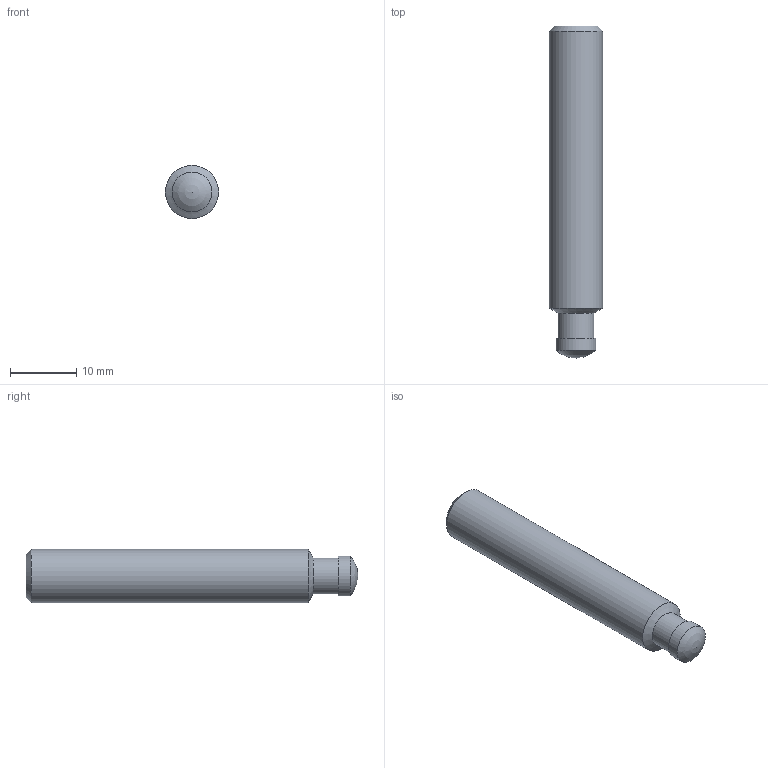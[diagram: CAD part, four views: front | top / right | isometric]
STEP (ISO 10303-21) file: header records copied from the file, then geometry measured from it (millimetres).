
FILE_DESCRIPTION( ( 'STEP AP203' ), '1' );
FILE_NAME( 'C:/Temp/Ganter_Step_05_03_2020/data/3_2/din6332/din6332/Grub screw DIN 6332-M8-50-SK.stp', '2020-03-13T05:16:19', ( 'License CC BY-ND 4.0' ), ( 'CADENAS' ), ' ', 'PARTsolutions', ' ' );
FILE_SCHEMA( ( 'CONFIG_CONTROL_DESIGN' ) );
Length unit declared in the file: millimetre
Products named in the file (1): _Grub screw DIN 6332-M8-50-SK
Bounding box: 8 x 50 x 8 mm (x, y, z)
Volume: 2276.8 mm3; surface area: 1308.9 mm2
Topology: 1 solids, 1 shells, 15 faces, 33 edges, 21 vertices
Faces by surface type: plane 9, cylinder 3, cone 2, sphere 1
Full cylindrical faces by diameter (mm): 5.4 x1, 6 x1, 8 x1
Entity records: 410 total; most frequent: DIRECTION 64, CARTESIAN_POINT 61, ORIENTED_EDGE 50, EDGE_CURVE 25, AXIS2_PLACEMENT_3D 23, EDGE_LOOP 22, VERTEX_POINT 20, FACE_OUTER_BOUND 18
